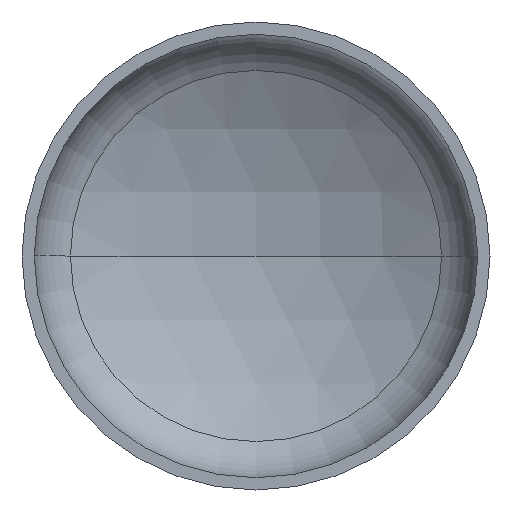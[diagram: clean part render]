
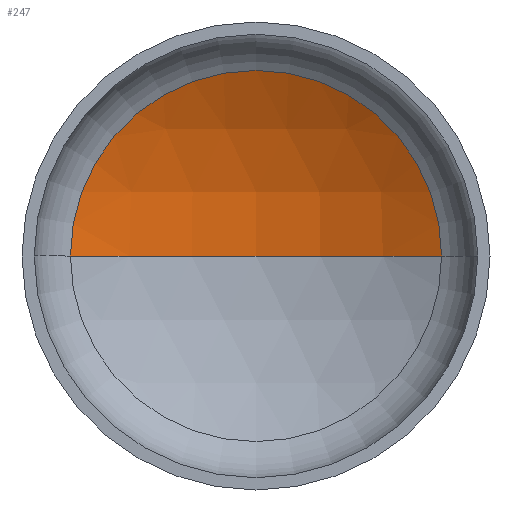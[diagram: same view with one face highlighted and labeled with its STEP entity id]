
A CAD part, front view. The second image highlights one B-rep face of the part: STEP entity #247.
In plain terms, the highlighted spherical face has radius 1280 mm.
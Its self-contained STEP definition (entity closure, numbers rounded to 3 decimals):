
#1 = ORIENTED_EDGE ( 'NONE', *, *, #343, .F. ) ;
#17 = AXIS2_PLACEMENT_3D ( 'NONE', #344, #211, #368 ) ;
#25 = AXIS2_PLACEMENT_3D ( 'NONE', #298, #163, #322 ) ;
#27 = AXIS2_PLACEMENT_3D ( 'NONE', #253, #277, #407 ) ;
#30 = VERTEX_POINT ( 'NONE', #292 ) ;
#38 = FACE_OUTER_BOUND ( 'NONE', #54, .T. ) ;
#41 = AXIS2_PLACEMENT_3D ( 'NONE', #408, #209, #338 ) ;
#54 = EDGE_LOOP ( 'NONE', ( #1, #128, #73 ) ) ;
#73 = ORIENTED_EDGE ( 'NONE', *, *, #330, .T. ) ;
#75 = VERTEX_POINT ( 'NONE', #149 ) ;
#76 = VERTEX_POINT ( 'NONE', #402 ) ;
#128 = ORIENTED_EDGE ( 'NONE', *, *, #334, .T. ) ;
#149 = CARTESIAN_POINT ( 'NONE',  ( -634.435, 342.788, 0. ) ) ;
#163 = DIRECTION ( 'NONE',  ( 0., 0., -1. ) ) ;
#167 = CIRCLE ( 'NONE', #17, 1280. ) ;
#173 = CIRCLE ( 'NONE', #27, 634.435 ) ;
#209 = DIRECTION ( 'NONE',  ( 0., 0., -1. ) ) ;
#211 = DIRECTION ( 'NONE',  ( 0., 0., 1. ) ) ;
#244 = SPHERICAL_SURFACE ( 'NONE', #41, 1280. ) ;
#247 = ADVANCED_FACE ( 'NONE', ( #38 ), #244, .F. ) ;
#253 = CARTESIAN_POINT ( 'NONE',  ( 0., 342.788, 0. ) ) ;
#277 = DIRECTION ( 'NONE',  ( 0., -1., 0. ) ) ;
#292 = CARTESIAN_POINT ( 'NONE',  ( 634.435, 342.788, 0. ) ) ;
#298 = CARTESIAN_POINT ( 'NONE',  ( 0., -768.919, 0. ) ) ;
#322 = DIRECTION ( 'NONE',  ( -1., 0., 0. ) ) ;
#330 = EDGE_CURVE ( 'NONE', #30, #75, #173, .T. ) ;
#334 = EDGE_CURVE ( 'NONE', #76, #30, #340, .T. ) ;
#338 = DIRECTION ( 'NONE',  ( -1., 0., 0. ) ) ;
#340 = CIRCLE ( 'NONE', #25, 1280. ) ;
#343 = EDGE_CURVE ( 'NONE', #76, #75, #167, .T. ) ;
#344 = CARTESIAN_POINT ( 'NONE',  ( 0., -768.919, 0. ) ) ;
#368 = DIRECTION ( 'NONE',  ( 1., 0., 0. ) ) ;
#402 = CARTESIAN_POINT ( 'NONE',  ( 0., 511.081, 0. ) ) ;
#407 = DIRECTION ( 'NONE',  ( 1., 0., 0. ) ) ;
#408 = CARTESIAN_POINT ( 'NONE',  ( 0., -768.919, 0. ) ) ;
